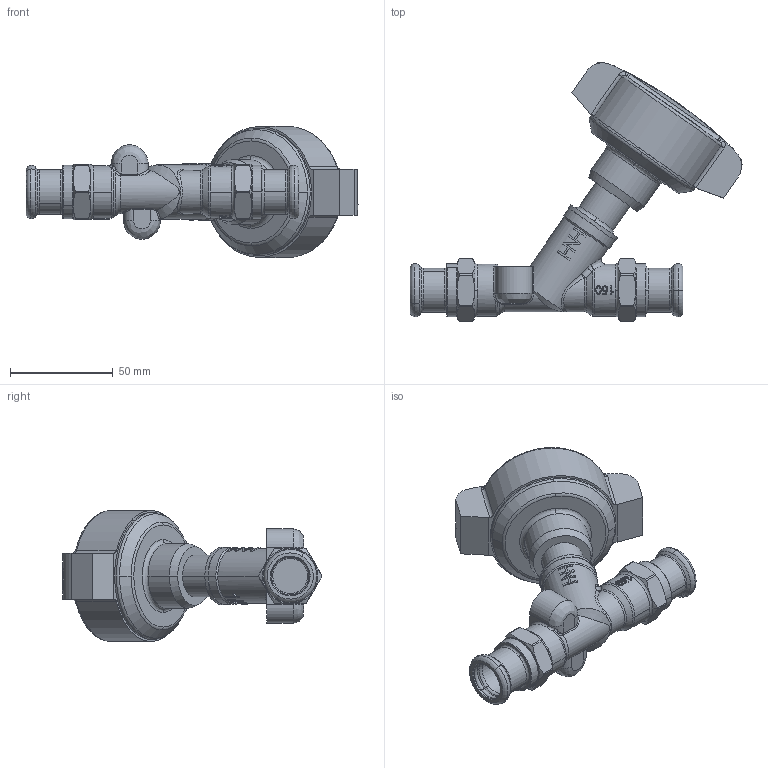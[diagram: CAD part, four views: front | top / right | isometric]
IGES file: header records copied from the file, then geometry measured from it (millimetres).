
Global section: file name: No Iges File Name specified; native system: AutoDesk Inventor R12.0; preprocessor: AutoDesk Inventor Iges Exporter R12.0; date: 20110824.164713; units: millimetre
Bounding box: 161.78 x 126.41 x 63.85 mm (x, y, z)
Volume: 207885.1 mm3; surface area: 37559.7 mm2
Topology: 1 solids, 3 shells, 718 faces, 1882 edges, 1228 vertices
Faces by surface type: plane 291, bspline 244, cylinder 84, revolution 38, cone 37, torus 24
